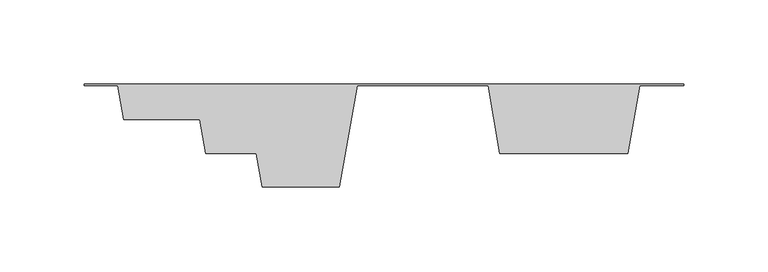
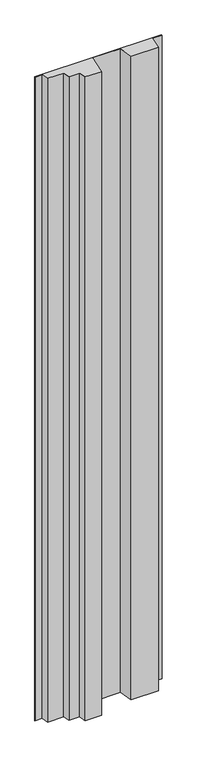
"""IFC4 building model written with IfcOpenShell, lengths in millimetres: plate geometry, ATELIERS 3S_NEW YORK MANHATTAN 780_VERTICAL : AZURO."""

from ifc_helpers import new_model, si_unit, origin, origin_with_axes, place, context, project, spatial, polyline, outline, extrude, source, transform, mapped, element, save


def plate_6982e660(model_context):
    return source(origin(), model_context, "Body", "SweptSolid", [
        extrude(outline(polyline([(-157.5646622, -0.864757), (-177.2499998, -0.864757), (-177.2499998, 0.0), (177.2499998, 0.0), (177.2499998, -0.864757), (151.3300587, -0.864757), (144.2769794, -40.864757), (68.6476547, -40.864757), (61.5945755, -0.864757), (-15.7760998, -0.864757), (-26.3557186, -60.864757), (-71.9850434, -60.864757), (-75.511583, -40.864757), (-105.511583, -40.864757), (-109.0381226, -20.864757), (-154.0381226, -20.864757), (-157.5646622, -0.864757)])), origin_with_axes(), (0.0, 0.0, 1.0), 1900.0),
    ])


if __name__ == "__main__":
    model = new_model("IFC4")
    model_context = context("Model", 3, world=origin())
    ifc_project = project(units=[si_unit("LENGTHUNIT", "METRE", prefix="MILLI")], contexts=[model_context])
    site = spatial("IfcSite", under=ifc_project)
    building = spatial("IfcBuilding", under=site)
    placement = place(None, origin())
    plate_shape = plate_6982e660(model_context)
    element("IfcPlate", 1, ObjectType="ATELIERS 3S_NEW YORK MANHATTAN 780_VERTICAL : AZURO", at=placement, inside=building, context=model_context, shape_type="MappedRepresentation", body=[
        mapped(plate_shape, transform((0.0, 0.0, 0.0), x_axis=(1.0, 0.0, 0.0), y_axis=(0.0, 1.0, 0.0), z_axis=(0.0, 0.0, 1.0))),
    ])
    save(model, "model.ifc")
